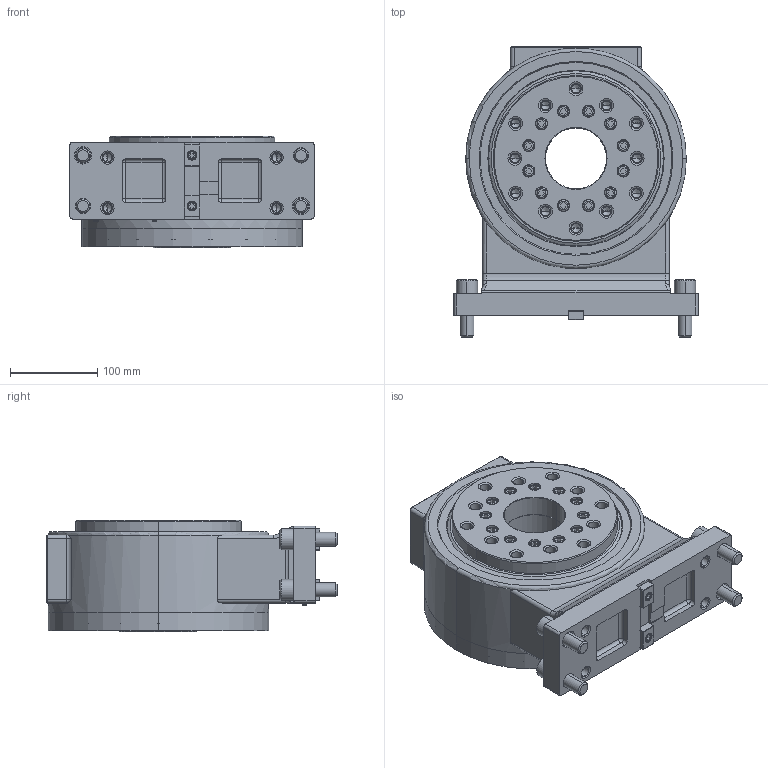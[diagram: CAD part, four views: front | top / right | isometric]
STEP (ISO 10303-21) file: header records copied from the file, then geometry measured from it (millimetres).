
FILE_DESCRIPTION (( 'STEP AP214' ), '1' );
FILE_NAME ('TSR181H.STEP', '2019-10-29T23:40:48', ( '' ), ( '' ), 'SwSTEP 2.0', 'SolidWorks 2017', '' );
FILE_SCHEMA (( 'AUTOMOTIVE_DESIGN' ));
Length unit declared in the file: millimetre
Products named in the file (8): ネームプレート(61E4732910); ガイドブロック(61M4197783); シリンダ(61E8255152)TSR181H; フェースプレート(61E8229031)TSR181A; ボデー(61E2711954)TSR181A; TSR181H; 0030116050; TSR181Hホンタイ
Assembly tree (11 placements, depth 3):
  TSR181H
    TSR181Hホンタイ
      ボデー(61E2711954)TSR181A
      フェースプレート(61E8229031)TSR181A
      シリンダ(61E8255152)TSR181H
      ガイドブロック(61M4197783)  x2
      ネームプレート(61E4732910)
    0030116050  x4
Bounding box: 280 x 333 x 128 mm (x, y, z)
Volume: 6846838.5 mm3; surface area: 550438.3 mm2
Topology: 10 solids, 12 shells, 2587 faces, 6738 edges, 4309 vertices
Faces by surface type: plane 1855, cylinder 398, cone 254, torus 38, bspline 26, sphere 16
Entity records: 84157 total; most frequent: CARTESIAN_POINT 14413, ORIENTED_EDGE 12716, DIRECTION 12124, EDGE_CURVE 6358, LINE 5314, VECTOR 5314, VERTEX_POINT 4136, AXIS2_PLACEMENT_3D 3405
